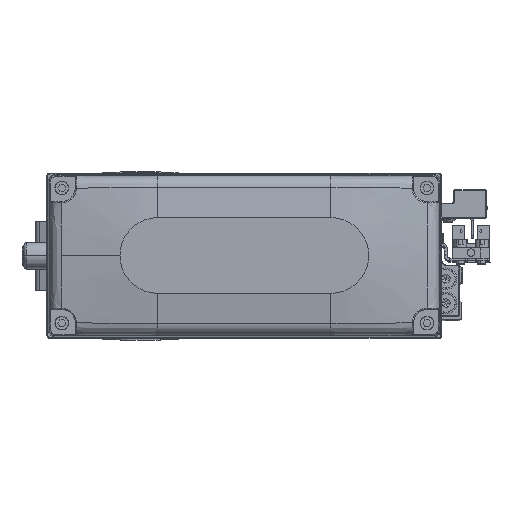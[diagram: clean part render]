
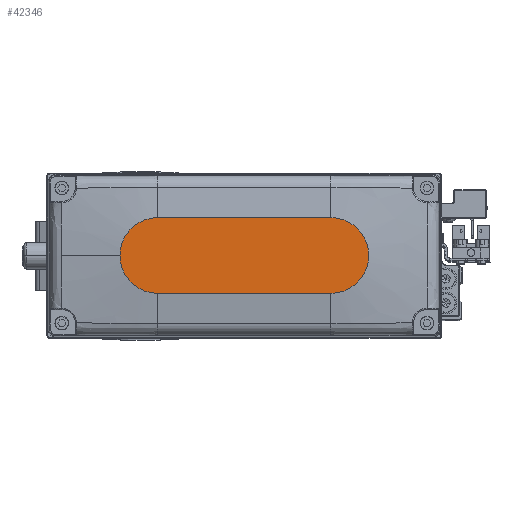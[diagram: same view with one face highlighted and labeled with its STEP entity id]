
A CAD part, top view. The second image highlights one B-rep face of the part: STEP entity #42346.
In plain terms, the highlighted planar face has unit normal (0, 0, 1).
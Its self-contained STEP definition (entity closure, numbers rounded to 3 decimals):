
#327 = VERTEX_POINT ( 'NONE', #33335 ) ;
#1415 = EDGE_CURVE ( 'NONE', #42567, #23516, #30576, .T. ) ;
#1484 = EDGE_CURVE ( 'NONE', #23516, #327, #39808, .T. ) ;
#1535 = AXIS2_PLACEMENT_3D ( 'NONE', #33343, #2946, #16476 ) ;
#2946 = DIRECTION ( 'NONE',  ( 0., 0., 1. ) ) ;
#4389 = CARTESIAN_POINT ( 'NONE',  ( -32., 14., 35. ) ) ;
#4502 = EDGE_CURVE ( 'NONE', #327, #28487, #34790, .T. ) ;
#5820 = LINE ( 'NONE', #19349, #41517 ) ;
#6989 = CARTESIAN_POINT ( 'NONE',  ( 32., -14., 35. ) ) ;
#7024 = ORIENTED_EDGE ( 'NONE', *, *, #15043, .T. ) ;
#7283 = DIRECTION ( 'NONE',  ( 1., 0., 0. ) ) ;
#8766 = DIRECTION ( 'NONE',  ( 0., 0., 1. ) ) ;
#11440 = AXIS2_PLACEMENT_3D ( 'NONE', #15589, #29124, #42652 ) ;
#12089 = FACE_OUTER_BOUND ( 'NONE', #14722, .T. ) ;
#14619 = CARTESIAN_POINT ( 'NONE',  ( -32., 14., 35. ) ) ;
#14722 = EDGE_LOOP ( 'NONE', ( #17879, #7024, #39624, #25380, #17602 ) ) ;
#15043 = EDGE_CURVE ( 'NONE', #28487, #42555, #34610, .T. ) ;
#15464 = AXIS2_PLACEMENT_3D ( 'NONE', #24130, #37678, #7283 ) ;
#15589 = CARTESIAN_POINT ( 'NONE',  ( 32., 0., 35. ) ) ;
#16476 = DIRECTION ( 'NONE',  ( 1., 0., 0. ) ) ;
#17107 = VECTOR ( 'NONE', #17923, 1000. ) ;
#17602 = ORIENTED_EDGE ( 'NONE', *, *, #1484, .T. ) ;
#17879 = ORIENTED_EDGE ( 'NONE', *, *, #4502, .T. ) ;
#17923 = DIRECTION ( 'NONE',  ( -1., 0., 0. ) ) ;
#19349 = CARTESIAN_POINT ( 'NONE',  ( -32., -14., 35. ) ) ;
#21782 = AXIS2_PLACEMENT_3D ( 'NONE', #39169, #8766, #22301 ) ;
#22301 = DIRECTION ( 'NONE',  ( 1., 0., 0. ) ) ;
#23516 = VERTEX_POINT ( 'NONE', #35035 ) ;
#23831 = CARTESIAN_POINT ( 'NONE',  ( -32., -14., 35. ) ) ;
#24130 = CARTESIAN_POINT ( 'NONE',  ( -32., 0., 35. ) ) ;
#25380 = ORIENTED_EDGE ( 'NONE', *, *, #1415, .T. ) ;
#25618 = PLANE ( 'NONE',  #21782 ) ;
#28487 = VERTEX_POINT ( 'NONE', #14619 ) ;
#29124 = DIRECTION ( 'NONE',  ( 0., 0., 1. ) ) ;
#30576 = CIRCLE ( 'NONE', #11440, 14. ) ;
#32881 = DIRECTION ( 'NONE',  ( 1., 0., 0. ) ) ;
#33335 = CARTESIAN_POINT ( 'NONE',  ( 32., 14., 35. ) ) ;
#33343 = CARTESIAN_POINT ( 'NONE',  ( 32., 0., 35. ) ) ;
#33695 = EDGE_CURVE ( 'NONE', #42555, #42567, #5820, .T. ) ;
#34610 = CIRCLE ( 'NONE', #15464, 14. ) ;
#34790 = LINE ( 'NONE', #4389, #17107 ) ;
#35035 = CARTESIAN_POINT ( 'NONE',  ( 46., 0., 35. ) ) ;
#37678 = DIRECTION ( 'NONE',  ( 0., 0., 1. ) ) ;
#39169 = CARTESIAN_POINT ( 'NONE',  ( 0., 0., 35. ) ) ;
#39624 = ORIENTED_EDGE ( 'NONE', *, *, #33695, .T. ) ;
#39808 = CIRCLE ( 'NONE', #1535, 14. ) ;
#41517 = VECTOR ( 'NONE', #32881, 1000. ) ;
#42346 = ADVANCED_FACE ( 'NONE', ( #12089 ), #25618, .T. ) ;
#42555 = VERTEX_POINT ( 'NONE', #23831 ) ;
#42567 = VERTEX_POINT ( 'NONE', #6989 ) ;
#42652 = DIRECTION ( 'NONE',  ( 1., 0., 0. ) ) ;
